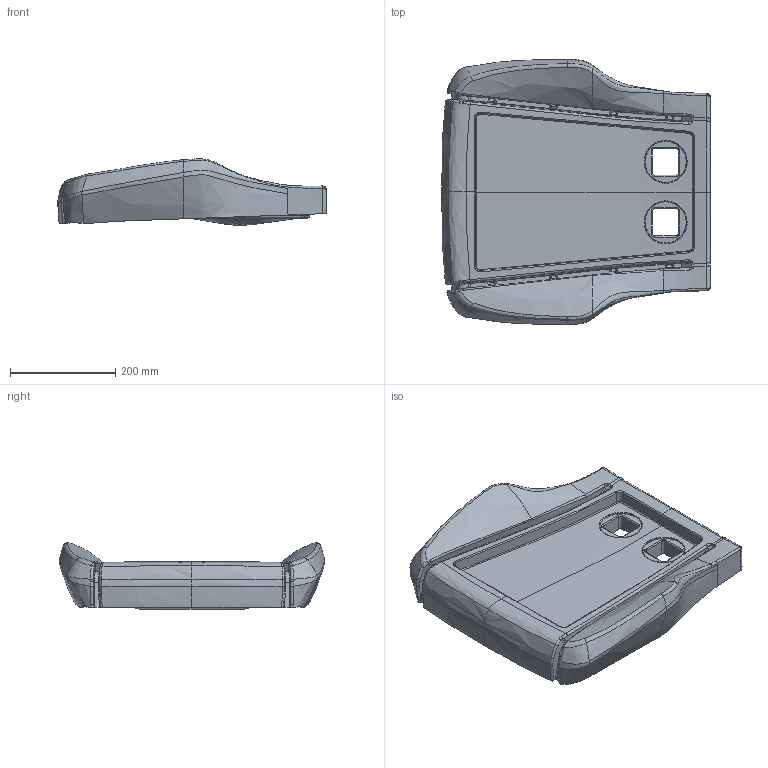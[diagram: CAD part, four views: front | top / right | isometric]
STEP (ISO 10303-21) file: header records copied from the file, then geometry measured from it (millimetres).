
FILE_DESCRIPTION(('CATIA V5 STEP Exchange'),'2;1');
FILE_NAME('C:\Users\Administrator\Desktop\SHT0018009主驾通风坐垫泡沫_A.stp','2025-03-28T06:42:35+00:00',('none'),('none'),'CATIA Version 5 Release 20 GA (IN-10)','CATIA V5 STEP AP214','none');
FILE_SCHEMA(('AUTOMOTIVE_DESIGN { 1 0 10303 214 1 1 1 1 }'));
Products named in the file (3): SHT0018009; SHT0018041; SHT0018042
Assembly tree (3 placements, depth 2):
  SHT0018009
    SHT0018041
    SHT0018042  x2
Bounding box: 511.3 x 504.81 x 126.54 mm (x, y, z)
Volume: 10932145 mm3; surface area: 739268.2 mm2
Topology: 3 solids, 10 shells, 3741 faces, 10666 edges, 6875 vertices
Faces by surface type: plane 2708, bspline 639, cylinder 234, sphere 68, extrusion 46, torus 36, cone 10
Entity records: 203357 total; most frequent: CARTESIAN_POINT 116056, ORIENTED_EDGE 21104, DIRECTION 13113, EDGE_CURVE 10552, VERTEX_POINT 6858, VECTOR 6834, LINE 6788, EDGE_LOOP 3746
